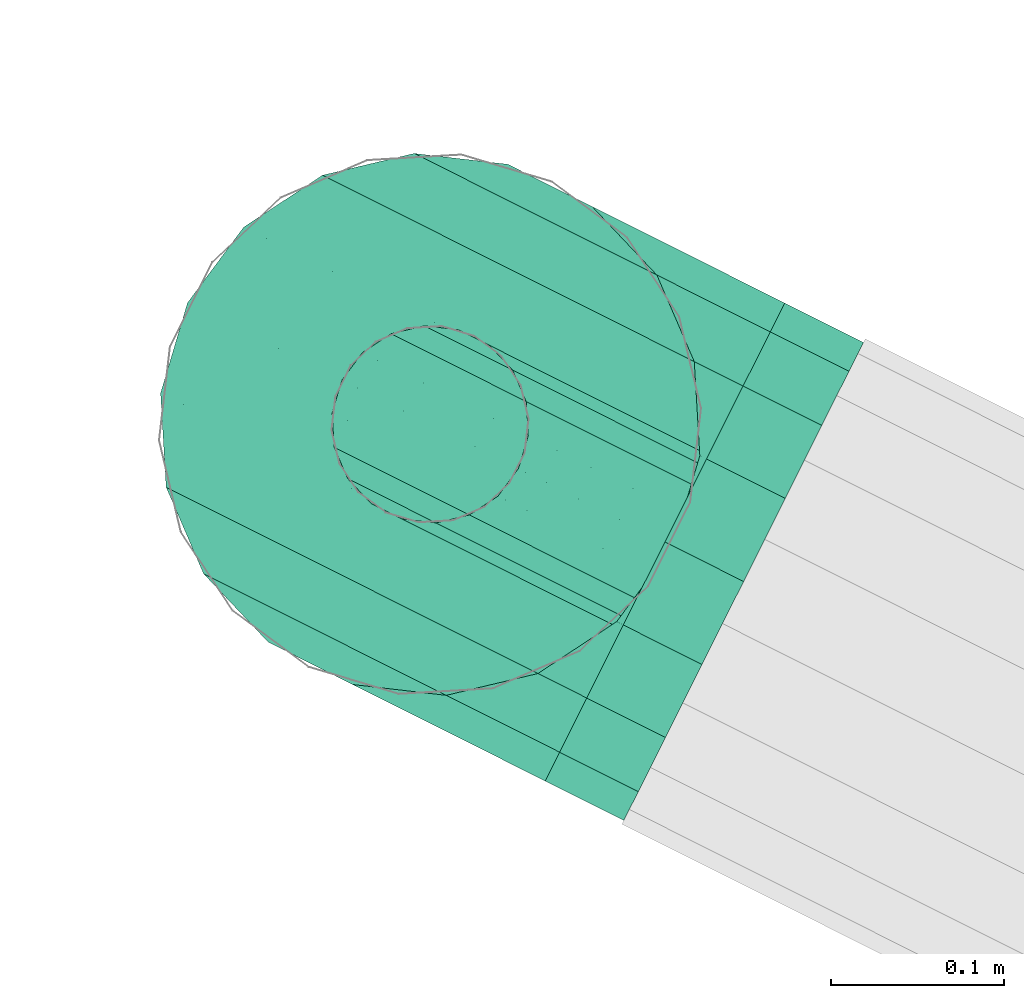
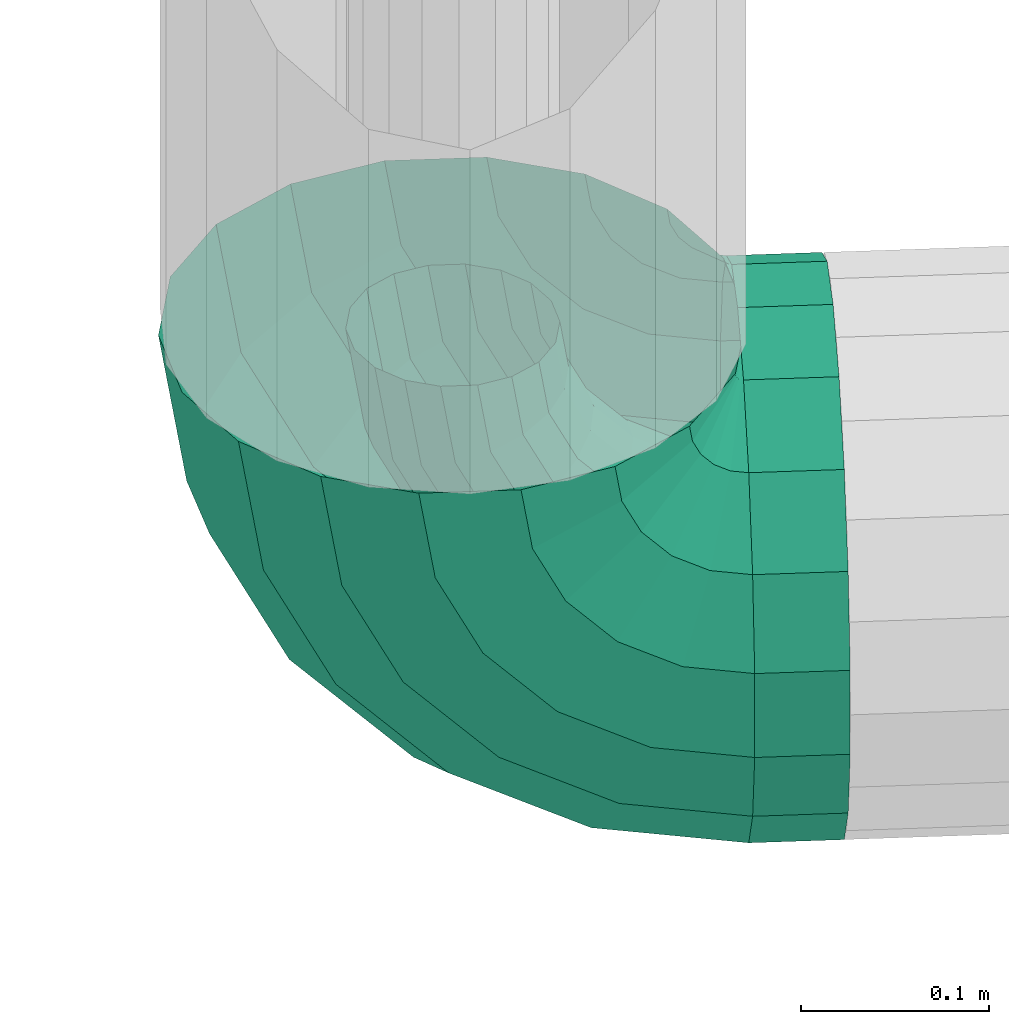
# One storey, part 170 of 206: 2 flow segments.
"""IFC2X3 building model written with IfcOpenShell, lengths in metres."""

from ifc_helpers import new_model, si_unit, derived_unit, direction, frame, origin, place, context, subcontext, project, spatial, face_set, surface_model, source, transform, mapped, material, type_object, type_shapes, element, save


model = new_model("IFC2X3")

# Units and contexts
model_context = context("Model", 3, precision=5.2338327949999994e-05, world=origin(), true_north=direction((0.0, 1.0)))
body_context = subcontext(model_context, "Body", "Model", "MODEL_VIEW")
ifc_project = project(units=[si_unit("LENGTHUNIT", "METRE"), si_unit("AREAUNIT", "SQUARE_METRE"), si_unit("VOLUMEUNIT", "CUBIC_METRE"), si_unit("MASSUNIT", "GRAM", prefix="KILO"), si_unit("PLANEANGLEUNIT", "RADIAN"), derived_unit("THERMALTRANSMITTANCEUNIT", [(si_unit("MASSUNIT", "GRAM", prefix="KILO"), 1), (si_unit("THERMODYNAMICTEMPERATUREUNIT", "KELVIN"), -1), (si_unit("TIMEUNIT", "SECOND"), -3)])], contexts=[model_context])

# Site, building, storey
site_placement = place(None, frame((0.0, 0.0, 0.0), z_axis=(0.0, 0.0, 1.0), x_axis=(0.8939966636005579, -0.4480736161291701, 0.0)))
site = spatial("IfcSite", under=ifc_project, at=site_placement, Name="Default", CompositionType="ELEMENT")
building_placement = place(site_placement, origin())
building = spatial("IfcBuilding", under=site, at=building_placement, CompositionType="ELEMENT")
storey_placement = place(building_placement, origin())
storey = spatial("IfcBuildingStorey", under=building, at=storey_placement, Name="Erdgeschoss", CompositionType="ELEMENT", Elevation=0.0)

# Flow segments
ifc_material = material(Name="IfcSurfaceStyle #1741")
distribution_element_type_1 = type_object("IfcDistributionElementType", Name="Rohrbogen 304590:Rohrbogen 304590", material=ifc_material)
shared_shape_1 = source(origin(), body_context, "Body", "SurfaceModel", [
    surface_model("IfcFaceBasedSurfaceModel", [(7.235328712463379, 8.012208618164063, 2.4051674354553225), (7.225092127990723, 8.012208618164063, 2.4697983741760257), (7.228538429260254, 8.031755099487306, 2.4697983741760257), (7.238606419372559, 8.031755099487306, 2.4062324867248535), (7.265036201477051, 8.012208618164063, 2.3468631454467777), (7.267824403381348, 8.031755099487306, 2.3488890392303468), (7.311306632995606, 8.012208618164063, 2.300592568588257), (7.313332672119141, 8.031755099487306, 2.303380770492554), (7.369611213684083, 8.012208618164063, 2.270884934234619), (7.370676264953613, 8.031755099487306, 2.274162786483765), (7.434242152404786, 8.012208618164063, 2.260648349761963), (7.434242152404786, 8.031755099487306, 2.264094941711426), (7.2480447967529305, 8.048943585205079, 2.409299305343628), (7.238462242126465, 8.048943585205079, 2.4697983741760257), (7.275852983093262, 8.048943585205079, 2.354722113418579), (7.3191654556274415, 8.048943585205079, 2.3114094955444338), (7.373742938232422, 8.048943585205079, 2.283601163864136), (7.434242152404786, 8.048943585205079, 2.2740188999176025), (7.262504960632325, 8.061701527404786, 2.4139977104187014), (7.253667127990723, 8.061701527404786, 2.4697983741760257), (7.288153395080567, 8.061701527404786, 2.36365906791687), (7.3281027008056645, 8.061701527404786, 2.32371019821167), (7.378440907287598, 8.061701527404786, 2.2980613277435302), (7.434242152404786, 8.061701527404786, 2.289223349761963), (7.272317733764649, 8.068490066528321, 2.4697983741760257), (7.280242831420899, 8.068490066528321, 2.4197611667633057), (7.303242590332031, 8.068490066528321, 2.3746219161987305), (7.339065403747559, 8.068490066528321, 2.338799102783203), (7.384204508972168, 8.068490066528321, 2.3157994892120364), (7.434242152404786, 8.068490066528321, 2.3078743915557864), (7.299119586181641, 8.068490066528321, 2.425894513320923), (7.292165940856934, 8.068490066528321, 2.4697983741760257), (7.31929974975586, 8.068490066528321, 2.386288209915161), (7.3507315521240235, 8.068490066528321, 2.354856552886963), (7.390337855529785, 8.068490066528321, 2.3346760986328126), (7.434242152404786, 8.068490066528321, 2.327722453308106), (7.316857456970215, 8.061701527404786, 2.4316579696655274), (7.310817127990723, 8.061701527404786, 2.4697983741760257), (7.3343889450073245, 8.061701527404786, 2.3972510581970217), (7.361694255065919, 8.061701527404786, 2.3699454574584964), (7.396101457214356, 8.061701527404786, 2.3524142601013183), (7.434242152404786, 8.061701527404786, 2.346373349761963), (7.331318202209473, 8.048943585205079, 2.4363563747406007), (7.326021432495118, 8.048943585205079, 2.4697983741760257), (7.346689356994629, 8.048943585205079, 2.4061880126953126), (7.370631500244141, 8.048943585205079, 2.3822461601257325), (7.400800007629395, 8.048943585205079, 2.3668745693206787), (7.434242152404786, 8.048943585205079, 2.3615777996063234), (7.335945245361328, 8.031755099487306, 2.4697983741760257), (7.340756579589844, 8.031755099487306, 2.4394231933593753), (7.354718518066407, 8.031755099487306, 2.412021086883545), (7.376464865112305, 8.031755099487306, 2.3902748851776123), (7.403866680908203, 8.031755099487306, 2.376312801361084), (7.434242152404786, 8.031755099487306, 2.371501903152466), (7.339392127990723, 8.012208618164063, 2.4697983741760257), (7.344034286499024, 8.012208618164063, 2.4404882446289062), (7.357506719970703, 8.012208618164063, 2.4140469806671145), (7.378490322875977, 8.012208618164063, 2.3930630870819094), (7.404931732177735, 8.012208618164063, 2.37959065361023), (7.434242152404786, 8.012208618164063, 2.3749483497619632), (7.340756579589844, 7.992662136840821, 2.4394231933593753), (7.335945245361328, 7.992662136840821, 2.4697983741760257), (7.354718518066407, 7.992662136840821, 2.412021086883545), (7.376464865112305, 7.992662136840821, 2.3902748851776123), (7.403866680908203, 7.992662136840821, 2.376312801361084), (7.434242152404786, 7.992662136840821, 2.371501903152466), (7.331318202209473, 7.975473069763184, 2.4363563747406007), (7.326021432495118, 7.975473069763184, 2.4697983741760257), (7.346689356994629, 7.975473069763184, 2.4061880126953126), (7.370631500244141, 7.975473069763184, 2.3822461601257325), (7.400800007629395, 7.975473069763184, 2.3668745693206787), (7.434242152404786, 7.975473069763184, 2.3615777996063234), (7.310817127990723, 7.962715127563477, 2.4697983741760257), (7.316857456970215, 7.962715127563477, 2.4316579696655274), (7.3343889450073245, 7.962715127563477, 2.3972510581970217), (7.361694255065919, 7.962715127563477, 2.3699454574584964), (7.396101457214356, 7.962715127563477, 2.3524142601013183), (7.434242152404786, 7.962715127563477, 2.346373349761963), (7.292165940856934, 7.955926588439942, 2.4697983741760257), (7.299119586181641, 7.955926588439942, 2.425894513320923), (7.31929974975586, 7.955926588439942, 2.386288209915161), (7.3507315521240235, 7.955926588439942, 2.354856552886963), (7.390337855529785, 7.955926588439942, 2.3346760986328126), (7.434242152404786, 7.955926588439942, 2.327722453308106), (7.272317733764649, 7.955926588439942, 2.4697983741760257), (7.280242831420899, 7.955926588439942, 2.4197611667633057), (7.303242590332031, 7.955926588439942, 2.3746219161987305), (7.339065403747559, 7.955926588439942, 2.338799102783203), (7.384204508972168, 7.955926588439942, 2.3157994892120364), (7.434242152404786, 7.955926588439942, 2.3078743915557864), (7.262504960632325, 7.962715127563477, 2.4139977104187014), (7.253667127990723, 7.962715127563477, 2.4697983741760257), (7.288153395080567, 7.962715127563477, 2.36365906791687), (7.3281027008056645, 7.962715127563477, 2.32371019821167), (7.378440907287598, 7.962715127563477, 2.2980613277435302), (7.434242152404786, 7.962715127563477, 2.289223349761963), (7.238462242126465, 7.975473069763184, 2.4697983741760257), (7.2480447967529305, 7.975473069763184, 2.409299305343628), (7.275852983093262, 7.975473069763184, 2.354722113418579), (7.3191654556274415, 7.975473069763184, 2.3114094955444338), (7.373742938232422, 7.975473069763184, 2.283601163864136), (7.434242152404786, 7.975473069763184, 2.2740188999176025), (7.228538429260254, 7.992662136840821, 2.4697983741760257), (7.238606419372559, 7.992662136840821, 2.4062324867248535), (7.267824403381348, 7.992662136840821, 2.3488890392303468), (7.313332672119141, 7.992662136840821, 2.303380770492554), (7.140222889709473, 8.012208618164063, 2.374265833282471), (7.125091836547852, 8.012208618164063, 2.4697983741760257), (7.134569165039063, 8.065957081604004, 2.4697983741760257), (7.1492362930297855, 8.065957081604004, 2.37719443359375), (7.184134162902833, 8.012208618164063, 2.288084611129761), (7.191801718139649, 8.065957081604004, 2.293655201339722), (7.2525282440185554, 8.012208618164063, 2.21969082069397), (7.258098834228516, 8.065957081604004, 2.2273580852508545), (7.338709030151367, 8.012208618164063, 2.175779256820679), (7.341637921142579, 8.065957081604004, 2.1847928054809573), (7.434242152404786, 8.012208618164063, 2.1606483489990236), (7.434242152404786, 8.065957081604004, 2.1701256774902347), (7.175189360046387, 8.113222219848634, 2.3856272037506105), (7.161858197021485, 8.113222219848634, 2.4697983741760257), (7.213878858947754, 8.113222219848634, 2.309695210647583), (7.274138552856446, 8.113222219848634, 2.24943522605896), (7.350070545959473, 8.113222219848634, 2.210745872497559), (7.434242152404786, 8.113222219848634, 2.1974145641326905), (7.203666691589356, 8.14830438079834, 2.4697983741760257), (7.214952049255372, 8.14830438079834, 2.3985467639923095), (7.2477029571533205, 8.14830438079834, 2.3342698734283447), (7.298713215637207, 8.14830438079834, 2.2832593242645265), (7.362990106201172, 8.14830438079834, 2.250508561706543), (7.434242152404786, 8.14830438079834, 2.2392233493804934), (7.254953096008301, 8.166970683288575, 2.4697983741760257), (7.263728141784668, 8.166970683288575, 2.414395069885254), (7.289194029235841, 8.166970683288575, 2.3644151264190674), (7.32885846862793, 8.166970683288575, 2.324750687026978), (7.378838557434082, 8.166970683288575, 2.29928465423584), (7.434242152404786, 8.166970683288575, 2.2905096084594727), (7.315634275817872, 8.166970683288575, 2.431260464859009), (7.309530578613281, 8.166970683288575, 2.4697983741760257), (7.333348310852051, 8.166970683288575, 2.3964949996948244), (7.3609384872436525, 8.166970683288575, 2.3689049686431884), (7.395703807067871, 8.166970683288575, 2.351191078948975), (7.434242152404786, 8.166970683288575, 2.345087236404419), (7.360816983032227, 8.14830438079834, 2.4697983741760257), (7.364410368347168, 8.14830438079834, 2.4471087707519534), (7.374839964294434, 8.14830438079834, 2.426640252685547), (7.391083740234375, 8.14830438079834, 2.41039633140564), (7.411552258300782, 8.14830438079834, 2.399967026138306), (7.434242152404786, 8.14830438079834, 2.3963733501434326), (7.404173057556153, 8.113222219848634, 2.460028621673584), (7.402626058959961, 8.113222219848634, 2.4697983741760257), (7.408664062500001, 8.113222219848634, 2.4512149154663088), (7.415658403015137, 8.113222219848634, 2.444220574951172), (7.4244718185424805, 8.113222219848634, 2.4397295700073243), (7.434242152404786, 8.113222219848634, 2.4381822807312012), (7.430126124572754, 8.065957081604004, 2.4684612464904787), (7.42991450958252, 8.065957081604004, 2.4697983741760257), (7.430741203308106, 8.065957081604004, 2.46725492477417), (7.431698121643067, 8.065957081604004, 2.466297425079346), (7.432904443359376, 8.065957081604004, 2.4656829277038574), (7.434242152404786, 8.065957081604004, 2.4654710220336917), (7.434242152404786, 8.041414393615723, 2.4697983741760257), (7.434242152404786, 8.04208179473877, 2.469055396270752), (7.434242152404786, 7.9830022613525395, 2.4697983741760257), (7.434242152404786, 7.982334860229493, 2.469055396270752), (7.430126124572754, 7.958460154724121, 2.4684612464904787), (7.42991450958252, 7.958460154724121, 2.4697983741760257), (7.430741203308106, 7.958460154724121, 2.46725492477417), (7.431698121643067, 7.958460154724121, 2.466297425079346), (7.432904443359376, 7.958460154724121, 2.4656829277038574), (7.434242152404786, 7.958460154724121, 2.4654710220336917), (7.402626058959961, 7.911194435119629, 2.4697983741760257), (7.404173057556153, 7.911194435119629, 2.460028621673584), (7.408664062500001, 7.911194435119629, 2.4512149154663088), (7.415658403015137, 7.911194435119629, 2.444220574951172), (7.4244718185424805, 7.911194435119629, 2.4397295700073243), (7.434242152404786, 7.911194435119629, 2.4381822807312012), (7.360816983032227, 7.876112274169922, 2.4697983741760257), (7.364410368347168, 7.876112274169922, 2.4471087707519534), (7.374839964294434, 7.876112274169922, 2.426640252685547), (7.391083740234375, 7.876112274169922, 2.41039633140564), (7.411552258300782, 7.876112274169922, 2.399967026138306), (7.434242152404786, 7.876112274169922, 2.3963733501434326), (7.309530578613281, 7.857445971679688, 2.4697983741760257), (7.315634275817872, 7.857445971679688, 2.431260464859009), (7.333348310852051, 7.857445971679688, 2.3964949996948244), (7.3609384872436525, 7.857445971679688, 2.3689049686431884), (7.395703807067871, 7.857445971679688, 2.351191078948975), (7.434242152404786, 7.857445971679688, 2.345087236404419), (7.254953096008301, 7.857445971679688, 2.4697983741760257), (7.263728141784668, 7.857445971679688, 2.414395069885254), (7.289194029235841, 7.857445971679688, 2.3644151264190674), (7.32885846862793, 7.857445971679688, 2.324750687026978), (7.378838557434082, 7.857445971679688, 2.29928465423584), (7.434242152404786, 7.857445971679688, 2.2905096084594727), (7.203666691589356, 7.876112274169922, 2.4697983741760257), (7.214952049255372, 7.876112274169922, 2.3985467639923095), (7.2477029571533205, 7.876112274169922, 2.3342698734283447), (7.298713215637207, 7.876112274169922, 2.2832593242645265), (7.362990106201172, 7.876112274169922, 2.250508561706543), (7.434242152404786, 7.876112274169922, 2.2392233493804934), (7.161858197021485, 7.911194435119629, 2.4697983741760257), (7.175189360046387, 7.911194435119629, 2.3856272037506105), (7.213878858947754, 7.911194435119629, 2.309695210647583), (7.274138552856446, 7.911194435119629, 2.24943522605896), (7.350070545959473, 7.911194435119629, 2.210745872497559), (7.434242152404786, 7.911194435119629, 2.1974145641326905), (7.134569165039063, 7.958460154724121, 2.4697983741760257), (7.1492362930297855, 7.958460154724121, 2.37719443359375), (7.191801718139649, 7.958460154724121, 2.293655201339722), (7.258098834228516, 7.958460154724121, 2.2273580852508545), (7.341637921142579, 7.958460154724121, 2.1847928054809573), (7.434242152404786, 7.958460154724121, 2.1701256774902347), (7.370676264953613, 7.992662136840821, 2.274162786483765), (7.434242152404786, 7.992662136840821, 2.264094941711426)], [face_set([[[0, 1, 2]], [[2, 3, 0]], [[4, 0, 3]], [[3, 5, 4]], [[6, 4, 7]], [[5, 7, 4]], [[8, 6, 7]], [[7, 9, 8]], [[10, 8, 9]], [[9, 11, 10]], [[3, 2, 12]], [[13, 12, 2]], [[5, 3, 14]], [[12, 14, 3]], [[7, 5, 15]], [[14, 15, 5]], [[9, 7, 16]], [[15, 16, 7]], [[11, 9, 17]], [[16, 17, 9]], [[12, 13, 18]], [[19, 18, 13]], [[14, 12, 20]], [[18, 20, 12]], [[15, 14, 21]], [[20, 21, 14]], [[16, 15, 21]], [[21, 22, 16]], [[17, 16, 22]], [[22, 23, 17]], [[18, 19, 24]], [[24, 25, 18]], [[20, 18, 25]], [[25, 26, 20]], [[21, 20, 26]], [[26, 27, 21]], [[22, 21, 27]], [[27, 28, 22]], [[23, 22, 28]], [[28, 29, 23]], [[25, 24, 30]], [[31, 30, 24]], [[26, 25, 32]], [[30, 32, 25]], [[27, 26, 33]], [[32, 33, 26]], [[28, 27, 33]], [[33, 34, 28]], [[29, 28, 35]], [[34, 35, 28]], [[30, 31, 36]], [[37, 36, 31]], [[32, 30, 38]], [[36, 38, 30]], [[33, 32, 38]], [[38, 39, 33]], [[34, 33, 40]], [[39, 40, 33]], [[35, 34, 41]], [[40, 41, 34]], [[36, 37, 42]], [[43, 42, 37]], [[38, 36, 44]], [[42, 44, 36]], [[39, 38, 45]], [[44, 45, 38]], [[40, 39, 46]], [[45, 46, 39]], [[41, 40, 47]], [[46, 47, 40]], [[42, 43, 48]], [[48, 49, 42]], [[44, 42, 49]], [[49, 50, 44]], [[45, 44, 50]], [[50, 51, 45]], [[46, 45, 51]], [[51, 52, 46]], [[47, 46, 52]], [[52, 53, 47]], [[49, 48, 54]], [[54, 55, 49]], [[50, 49, 56]], [[55, 56, 49]], [[51, 50, 57]], [[56, 57, 50]], [[52, 51, 57]], [[57, 58, 52]], [[53, 52, 58]], [[58, 59, 53]], [[55, 54, 60]], [[61, 60, 54]], [[56, 55, 60]], [[60, 62, 56]], [[57, 56, 63]], [[62, 63, 56]], [[58, 57, 64]], [[63, 64, 57]], [[59, 58, 65]], [[64, 65, 58]], [[60, 61, 66]], [[67, 66, 61]], [[62, 60, 68]], [[66, 68, 60]], [[63, 62, 68]], [[68, 69, 63]], [[64, 63, 69]], [[69, 70, 64]], [[65, 64, 71]], [[70, 71, 64]], [[66, 67, 72]], [[72, 73, 66]], [[68, 66, 73]], [[73, 74, 68]], [[69, 68, 75]], [[74, 75, 68]], [[70, 69, 75]], [[75, 76, 70]], [[71, 70, 76]], [[76, 77, 71]], [[73, 72, 78]], [[78, 79, 73]], [[74, 73, 79]], [[79, 80, 74]], [[75, 74, 81]], [[80, 81, 74]], [[76, 75, 81]], [[81, 82, 76]], [[77, 76, 82]], [[82, 83, 77]], [[79, 78, 84]], [[84, 85, 79]], [[80, 79, 85]], [[85, 86, 80]], [[81, 80, 87]], [[86, 87, 80]], [[82, 81, 88]], [[87, 88, 81]], [[83, 82, 88]], [[88, 89, 83]], [[85, 84, 90]], [[91, 90, 84]], [[86, 85, 92]], [[90, 92, 85]], [[87, 86, 93]], [[92, 93, 86]], [[88, 87, 94]], [[93, 94, 87]], [[89, 88, 95]], [[94, 95, 88]], [[90, 91, 96]], [[96, 97, 90]], [[92, 90, 97]], [[97, 98, 92]], [[93, 92, 98]], [[98, 99, 93]], [[94, 93, 100]], [[99, 100, 93]], [[95, 94, 100]], [[100, 101, 95]], [[97, 96, 102]], [[102, 103, 97]], [[98, 97, 103]], [[103, 104, 98]], [[99, 98, 104]], [[104, 105, 99]], [[103, 102, 0]], [[1, 0, 102]], [[104, 103, 4]], [[0, 4, 103]], [[105, 104, 4]], [[4, 6, 105]], [[106, 107, 108]], [[108, 109, 106]], [[110, 106, 111]], [[109, 111, 106]], [[112, 110, 111]], [[111, 113, 112]], [[114, 112, 113]], [[113, 115, 114]], [[116, 114, 115]], [[115, 117, 116]], [[109, 108, 118]], [[119, 118, 108]], [[111, 109, 120]], [[118, 120, 109]], [[113, 111, 120]], [[120, 121, 113]], [[115, 113, 121]], [[121, 122, 115]], [[117, 115, 122]], [[122, 123, 117]], [[118, 119, 124]], [[124, 125, 118]], [[120, 118, 125]], [[125, 126, 120]], [[121, 120, 126]], [[126, 127, 121]], [[122, 121, 127]], [[127, 128, 122]], [[123, 122, 128]], [[128, 129, 123]], [[125, 124, 130]], [[130, 131, 125]], [[126, 125, 132]], [[131, 132, 125]], [[127, 126, 132]], [[132, 133, 127]], [[128, 127, 133]], [[133, 134, 128]], [[129, 128, 135]], [[134, 135, 128]], [[131, 130, 136]], [[137, 136, 130]], [[132, 131, 136]], [[136, 138, 132]], [[133, 132, 138]], [[138, 139, 133]], [[134, 133, 139]], [[139, 140, 134]], [[135, 134, 140]], [[140, 141, 135]], [[136, 137, 142]], [[142, 143, 136]], [[138, 136, 143]], [[143, 144, 138]], [[139, 138, 144]], [[144, 145, 139]], [[140, 139, 145]], [[145, 146, 140]], [[141, 140, 146]], [[146, 147, 141]], [[143, 142, 148]], [[149, 148, 142]], [[144, 143, 150]], [[148, 150, 143]], [[145, 144, 151]], [[150, 151, 144]], [[146, 145, 151]], [[151, 152, 146]], [[147, 146, 153]], [[152, 153, 146]], [[148, 149, 154]], [[155, 154, 149]], [[150, 148, 156]], [[154, 156, 148]], [[151, 150, 156]], [[156, 157, 151]], [[152, 151, 157]], [[157, 158, 152]], [[153, 152, 158]], [[158, 159, 153]], [[160, 154, 161]], [[160, 161, 155]], [[154, 155, 161]], [[156, 154, 160]], [[157, 156, 160]], [[158, 157, 160]], [[159, 158, 160]], [[162, 163, 164]], [[165, 164, 163]], [[163, 162, 165]], [[164, 166, 162]], [[162, 166, 167]], [[167, 168, 162]], [[168, 169, 162]], [[164, 165, 170]], [[170, 171, 164]], [[166, 164, 171]], [[171, 172, 166]], [[167, 166, 173]], [[172, 173, 166]], [[168, 167, 174]], [[173, 174, 167]], [[169, 168, 175]], [[174, 175, 168]], [[171, 170, 176]], [[176, 177, 171]], [[172, 171, 177]], [[177, 178, 172]], [[173, 172, 178]], [[178, 179, 173]], [[174, 173, 180]], [[179, 180, 173]], [[175, 174, 180]], [[180, 181, 175]], [[177, 176, 182]], [[182, 183, 177]], [[178, 177, 184]], [[183, 184, 177]], [[179, 178, 184]], [[184, 185, 179]], [[180, 179, 186]], [[185, 186, 179]], [[181, 180, 187]], [[186, 187, 180]], [[183, 182, 188]], [[188, 189, 183]], [[184, 183, 190]], [[189, 190, 183]], [[185, 184, 191]], [[190, 191, 184]], [[186, 185, 192]], [[191, 192, 185]], [[187, 186, 193]], [[192, 193, 186]], [[189, 188, 194]], [[194, 195, 189]], [[190, 189, 195]], [[195, 196, 190]], [[191, 190, 197]], [[196, 197, 190]], [[192, 191, 197]], [[197, 198, 192]], [[193, 192, 198]], [[198, 199, 193]], [[195, 194, 200]], [[200, 201, 195]], [[196, 195, 202]], [[201, 202, 195]], [[197, 196, 203]], [[202, 203, 196]], [[198, 197, 204]], [[203, 204, 197]], [[199, 198, 205]], [[204, 205, 198]], [[201, 200, 206]], [[206, 207, 201]], [[202, 201, 208]], [[207, 208, 201]], [[203, 202, 208]], [[208, 209, 203]], [[204, 203, 209]], [[209, 210, 204]], [[205, 204, 211]], [[210, 211, 204]], [[207, 206, 107]], [[107, 106, 207]], [[208, 207, 110]], [[106, 110, 207]], [[209, 208, 112]], [[110, 112, 208]], [[210, 209, 114]], [[112, 114, 209]], [[211, 210, 116]], [[114, 116, 210]], [[100, 99, 212]], [[105, 212, 99]], [[101, 100, 213]], [[212, 213, 100]], [[212, 105, 6]], [[6, 8, 212]], [[213, 212, 8]], [[8, 10, 213]]])]),
])
type_shapes(distribution_element_type_1, [shared_shape_1])
flow_segment_1_placement = place(storey_placement, origin())
element("IfcFlowSegment", 1, at=flow_segment_1_placement, inside=storey, type_object=distribution_element_type_1, material=ifc_material, Name="Rohrbogen", ObjectType="Rohrbogen", context=body_context, shape_type="MappedRepresentation", body=[
    mapped(shared_shape_1, transform((0.0, 0.0, 0.0), scale=1.0)),
])
distribution_element_type_2 = type_object("IfcDistributionElementType", Name="Stahlrohr nach DIN 2448 304613:Stahlrohr nach DIN 2448 304613", material=ifc_material)
shared_shape_2 = source(origin(), body_context, "Body", "SurfaceModel", [
    surface_model("IfcFaceBasedSurfaceModel", [(7.4852324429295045, 8.012208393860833, 2.260648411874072), (7.4852324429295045, 7.992661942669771, 2.264094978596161), (7.434241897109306, 7.99266194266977, 2.2640949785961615), (7.434241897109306, 8.012208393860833, 2.2606484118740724), (7.4852324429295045, 7.975473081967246, 2.274018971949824), (7.434241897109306, 7.975473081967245, 2.2740189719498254), (7.4852324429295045, 7.962715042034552, 2.2892234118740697), (7.434241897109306, 7.962715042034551, 2.289223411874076), (7.4852324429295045, 7.9559266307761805, 2.3078744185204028), (7.434241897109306, 7.955926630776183, 2.3078744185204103), (7.4852324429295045, 7.955926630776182, 2.327722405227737), (7.434241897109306, 7.955926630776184, 2.327722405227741), (7.4852324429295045, 7.962715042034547, 2.346373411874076), (7.434241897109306, 7.962715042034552, 2.346373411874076), (7.4852324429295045, 7.975473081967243, 2.361577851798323), (7.434241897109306, 7.975473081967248, 2.3615778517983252), (7.4852324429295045, 7.9926619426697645, 2.3715018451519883), (7.434241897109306, 7.992661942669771, 2.3715018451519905), (7.4852324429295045, 8.012208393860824, 2.3749484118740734), (7.434241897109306, 8.012208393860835, 2.374948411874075), (7.4852324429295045, 8.03175484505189, 2.3715018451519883), (7.434241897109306, 8.031754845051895, 2.37150184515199), (7.4852324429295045, 8.048943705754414, 2.3615778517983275), (7.434241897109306, 8.048943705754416, 2.3615778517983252), (7.4852324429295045, 8.061701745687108, 2.34637341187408), (7.434241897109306, 8.061701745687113, 2.3463734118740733), (7.4852324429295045, 8.068490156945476, 2.3277224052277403), (7.434241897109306, 8.06849015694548, 2.3277224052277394), (7.4852324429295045, 8.068490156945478, 2.3078744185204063), (7.434241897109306, 8.06849015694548, 2.307874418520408), (7.4852324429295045, 8.061701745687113, 2.2892234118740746), (7.434241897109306, 8.061701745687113, 2.2892234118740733), (7.4852324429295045, 8.048943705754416, 2.274018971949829), (7.434241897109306, 8.048943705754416, 2.274018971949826), (7.4852324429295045, 8.031754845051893, 2.2640949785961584), (7.434241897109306, 8.031754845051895, 2.264094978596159), (7.4852324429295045, 8.012208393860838, 2.160648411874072), (7.4852324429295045, 7.95845992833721, 2.1701257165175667), (7.434241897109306, 7.958459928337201, 2.1701257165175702), (7.434241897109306, 8.012208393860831, 2.1606484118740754), (7.4852324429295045, 7.911194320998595, 2.1974145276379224), (7.434241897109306, 7.911194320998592, 2.1974145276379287), (7.4852324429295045, 7.8761125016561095, 2.2392234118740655), (7.434241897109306, 7.876112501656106, 2.2392234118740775), (7.4852324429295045, 7.857445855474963, 2.290509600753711), (7.434241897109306, 7.857445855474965, 2.29050960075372), (7.4852324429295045, 7.857445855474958, 2.345087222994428), (7.434241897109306, 7.857445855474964, 2.3450872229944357), (7.4852324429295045, 7.876112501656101, 2.3963734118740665), (7.434241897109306, 7.876112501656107, 2.3963734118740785), (7.4852324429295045, 7.911194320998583, 2.4381822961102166), (7.434241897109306, 7.911194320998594, 2.4381822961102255), (7.4852324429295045, 7.958459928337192, 2.4654711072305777), (7.434241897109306, 7.958459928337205, 2.465471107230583), (7.4852324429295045, 8.01220839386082, 2.474948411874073), (7.434241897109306, 8.012208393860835, 2.4749484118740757), (7.4852324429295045, 8.06595685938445, 2.4654711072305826), (7.434241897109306, 8.065956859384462, 2.465471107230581), (7.4852324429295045, 8.113222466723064, 2.438182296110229), (7.434241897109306, 8.113222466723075, 2.4381822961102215), (7.4852324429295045, 8.14830428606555, 2.396373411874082), (7.434241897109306, 8.148304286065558, 2.3963734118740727), (7.4852324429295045, 8.166970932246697, 2.3450872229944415), (7.434241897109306, 8.166970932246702, 2.3450872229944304), (7.4852324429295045, 8.166970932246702, 2.290509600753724), (7.434241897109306, 8.166970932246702, 2.290509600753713), (7.4852324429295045, 8.148304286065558, 2.2392234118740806), (7.434241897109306, 8.148304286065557, 2.2392234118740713), (7.4852324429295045, 8.113222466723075, 2.197414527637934), (7.434241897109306, 8.113222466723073, 2.1974145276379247), (7.4852324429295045, 8.065956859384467, 2.170125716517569), (7.434241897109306, 8.06595685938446, 2.1701257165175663)], [face_set([[[0, 1, 2, 3]], [[1, 4, 5, 2]], [[4, 6, 7, 5]], [[6, 8, 9, 7]], [[8, 10, 11, 9]], [[10, 12, 13, 11]], [[12, 14, 15, 13]], [[14, 16, 17, 15]], [[16, 18, 19, 17]], [[18, 20, 21, 19]], [[20, 22, 23, 21]], [[22, 24, 25, 23]], [[24, 26, 27, 25]], [[26, 28, 29, 27]], [[28, 30, 31, 29]], [[30, 32, 33, 31]], [[32, 34, 35, 33]], [[34, 0, 3, 35]], [[36, 37, 38, 39]], [[37, 40, 41, 38]], [[40, 42, 43, 41]], [[42, 44, 45, 43]], [[44, 46, 47, 45]], [[46, 48, 49, 47]], [[48, 50, 51, 49]], [[50, 52, 53, 51]], [[52, 54, 55, 53]], [[54, 56, 57, 55]], [[56, 58, 59, 57]], [[58, 60, 61, 59]], [[60, 62, 63, 61]], [[62, 64, 65, 63]], [[64, 66, 67, 65]], [[66, 68, 69, 67]], [[68, 70, 71, 69]], [[70, 36, 39, 71]]])]),
])
type_shapes(distribution_element_type_2, [shared_shape_2])
flow_segment_2_placement = place(storey_placement, origin())
element("IfcFlowSegment", 2, at=flow_segment_2_placement, inside=storey, type_object=distribution_element_type_2, material=ifc_material, Name="Stahlrohr nach DIN 2448", ObjectType="Stahlrohr nach DIN 2448", context=body_context, shape_type="MappedRepresentation", body=[
    mapped(shared_shape_2, transform((0.0, 0.0, 0.0), scale=1.0)),
])

save(model, "model.ifc")
